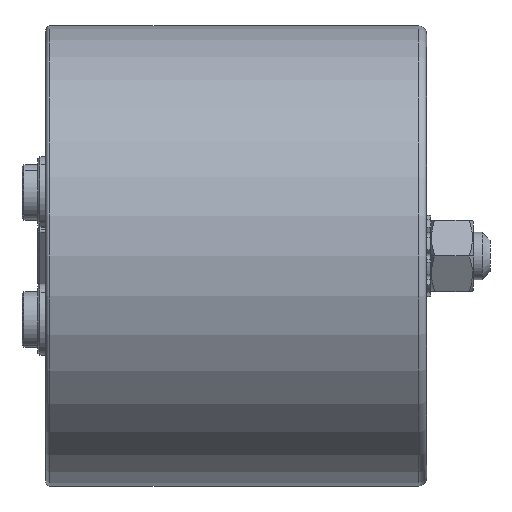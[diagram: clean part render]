
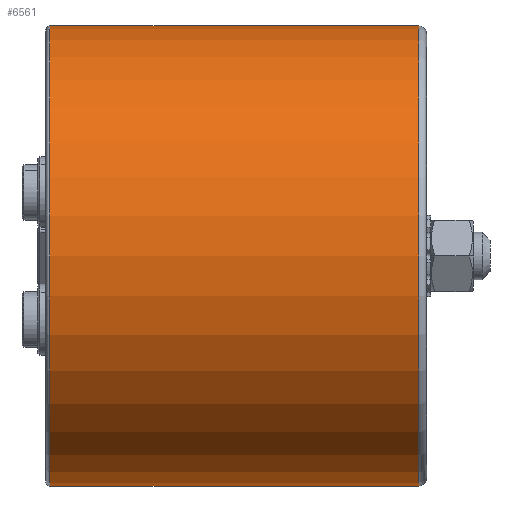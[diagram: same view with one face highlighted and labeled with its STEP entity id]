
A CAD part, left-side view. The second image highlights one B-rep face of the part: STEP entity #6561.
In plain terms, the highlighted cylindrical face has radius 58 mm (diameter 116 mm), a partial arc.
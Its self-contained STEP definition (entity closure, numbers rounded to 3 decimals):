
#37 = VERTEX_POINT ( 'NONE', #5433 ) ;
#222 = CARTESIAN_POINT ( 'NONE',  ( 0., -10., -58. ) ) ;
#830 = VERTEX_POINT ( 'NONE', #5018 ) ;
#1047 = EDGE_CURVE ( 'NONE', #37, #4424, #4878, .T. ) ;
#1236 = DIRECTION ( 'NONE',  ( 0., -1., 0. ) ) ;
#1344 = CIRCLE ( 'NONE', #7582, 58. ) ;
#1711 = AXIS2_PLACEMENT_3D ( 'NONE', #6667, #5298, #7311 ) ;
#2276 = CARTESIAN_POINT ( 'NONE',  ( 0., -10., 0. ) ) ;
#2290 = CARTESIAN_POINT ( 'NONE',  ( 0., -1., 58. ) ) ;
#2421 = VECTOR ( 'NONE', #5408, 1000. ) ;
#2509 = EDGE_CURVE ( 'NONE', #4424, #3827, #3436, .T. ) ;
#2658 = DIRECTION ( 'NONE',  ( 0., 1., 0. ) ) ;
#3436 = LINE ( 'NONE', #5876, #3538 ) ;
#3538 = VECTOR ( 'NONE', #2658, 1000. ) ;
#3827 = VERTEX_POINT ( 'NONE', #2290 ) ;
#3878 = ORIENTED_EDGE ( 'NONE', *, *, #1047, .T. ) ;
#4127 = EDGE_CURVE ( 'NONE', #3827, #830, #1344, .T. ) ;
#4424 = VERTEX_POINT ( 'NONE', #6150 ) ;
#4878 = CIRCLE ( 'NONE', #1711, 58. ) ;
#5018 = CARTESIAN_POINT ( 'NONE',  ( 0., -1., -58. ) ) ;
#5110 = CARTESIAN_POINT ( 'NONE',  ( 0., -1., 0. ) ) ;
#5224 = ORIENTED_EDGE ( 'NONE', *, *, #4127, .T. ) ;
#5298 = DIRECTION ( 'NONE',  ( 0., 1., 0. ) ) ;
#5408 = DIRECTION ( 'NONE',  ( 0., 1., 0. ) ) ;
#5433 = CARTESIAN_POINT ( 'NONE',  ( 0., -94., -58. ) ) ;
#5759 = DIRECTION ( 'NONE',  ( 0., 0., 1. ) ) ;
#5876 = CARTESIAN_POINT ( 'NONE',  ( 0., -10., 58. ) ) ;
#6045 = DIRECTION ( 'NONE',  ( 0., 1., 0. ) ) ;
#6150 = CARTESIAN_POINT ( 'NONE',  ( 0., -94., 58. ) ) ;
#6172 = DIRECTION ( 'NONE',  ( 0., 0., -1. ) ) ;
#6561 = ADVANCED_FACE ( 'NONE', ( #6877 ), #8082, .T. ) ;
#6633 = AXIS2_PLACEMENT_3D ( 'NONE', #2276, #6045, #6172 ) ;
#6667 = CARTESIAN_POINT ( 'NONE',  ( 0., -94., 0. ) ) ;
#6704 = ORIENTED_EDGE ( 'NONE', *, *, #2509, .T. ) ;
#6877 = FACE_OUTER_BOUND ( 'NONE', #6990, .T. ) ;
#6990 = EDGE_LOOP ( 'NONE', ( #3878, #6704, #5224, #7337 ) ) ;
#7311 = DIRECTION ( 'NONE',  ( 0., 0., -1. ) ) ;
#7337 = ORIENTED_EDGE ( 'NONE', *, *, #7912, .F. ) ;
#7582 = AXIS2_PLACEMENT_3D ( 'NONE', #5110, #1236, #5759 ) ;
#7912 = EDGE_CURVE ( 'NONE', #37, #830, #8243, .T. ) ;
#8082 = CYLINDRICAL_SURFACE ( 'NONE', #6633, 58. ) ;
#8243 = LINE ( 'NONE', #222, #2421 ) ;
